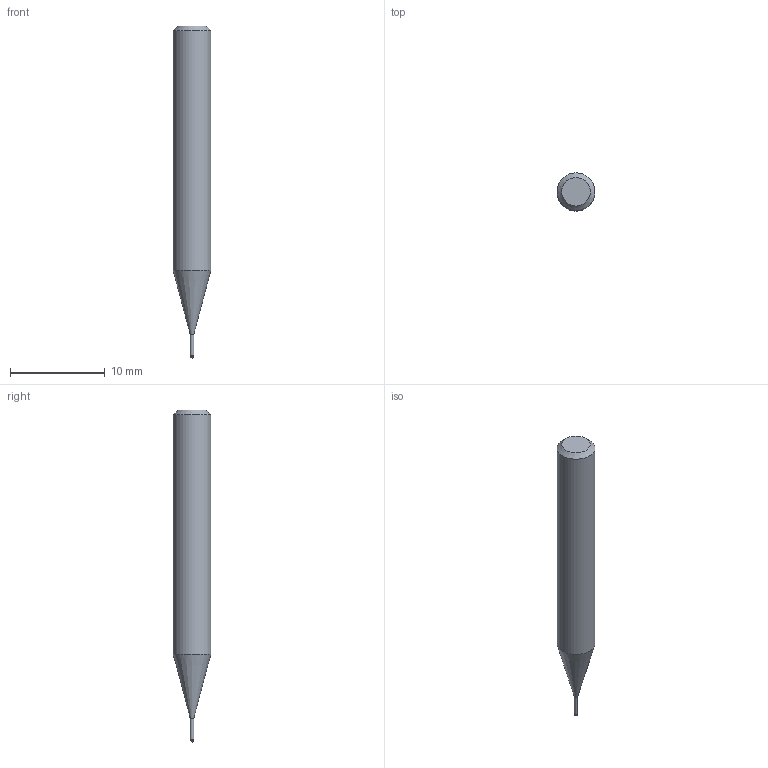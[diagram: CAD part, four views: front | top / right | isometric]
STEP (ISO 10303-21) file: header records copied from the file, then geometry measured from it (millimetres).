
FILE_DESCRIPTION((''),'2;1');
FILE_NAME('C:\Users\nsx150\AppData\Local\Temp\Mastercam 2021\QT8KEW0Y7J\TEMP.step','2021-04-23T11:20:37',(''),(''),'STEP Write','Mastercam 2021 ... CNC Software, Inc.','');
FILE_SCHEMA(('AUTOMOTIVE_DESIGN'));
Length unit declared in the file: millimetre
Products named in the file (1): None
Bounding box: 4 x 4 x 35 mm (x, y, z)
Volume: 353.4 mm3; surface area: 383.2 mm2
Topology: 2 solids, 2 shells, 9 faces, 14 edges, 8 vertices
Faces by surface type: plane 3, cylinder 3, cone 2, sphere 1
Full cylindrical faces by diameter (mm): 0.37 x1, 0.4 x1, 4 x1
Entity records: 211 total; most frequent: DIRECTION 36, CARTESIAN_POINT 25, AXIS2_PLACEMENT_3D 18, ORIENTED_EDGE 14, EDGE_LOOP 14, STYLED_ITEM 12, ADVANCED_FACE 9, FACE_BOUND 8
